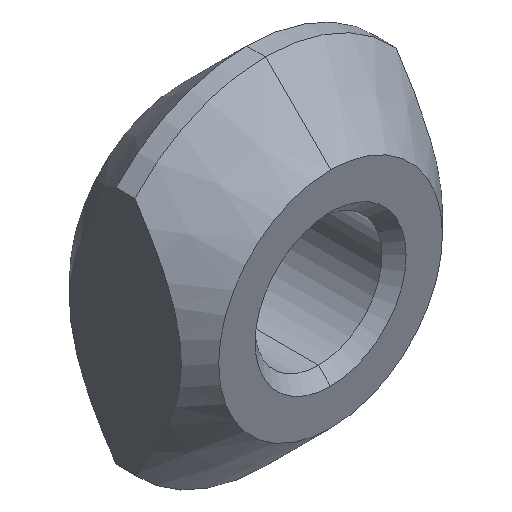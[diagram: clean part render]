
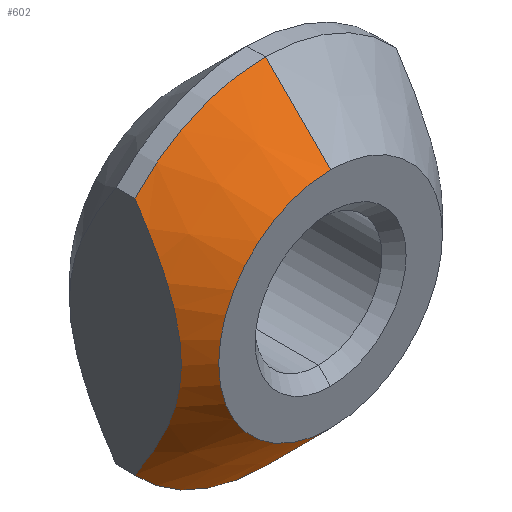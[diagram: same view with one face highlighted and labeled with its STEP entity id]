
A CAD part, isometric view. The second image highlights one B-rep face of the part: STEP entity #602.
In plain terms, the highlighted conical face has half-angle 45 degrees and reference radius 9.5 mm.
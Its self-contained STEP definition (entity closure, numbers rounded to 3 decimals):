
#5 = CARTESIAN_POINT ( 'NONE',  ( 0., 0., 0. ) ) ;
#24 = CARTESIAN_POINT ( 'NONE',  ( -7., 1.659, -3.117 ) ) ;
#28 = CARTESIAN_POINT ( 'NONE',  ( -7., 3.176, 5.943 ) ) ;
#31 = CARTESIAN_POINT ( 'NONE',  ( -7., 1.667, 3.136 ) ) ;
#37 = CARTESIAN_POINT ( 'NONE',  ( 0., 3.5, 0. ) ) ;
#44 = AXIS2_PLACEMENT_3D ( 'NONE', #37, #338, #386 ) ;
#49 = CONICAL_SURFACE ( 'NONE', #64, 9.5, 0.785 ) ;
#64 = AXIS2_PLACEMENT_3D ( 'NONE', #553, #505, #147 ) ;
#68 = EDGE_CURVE ( 'NONE', #465, #528, #486, .T. ) ;
#76 = CIRCLE ( 'NONE', #44, 9.5 ) ;
#78 = CARTESIAN_POINT ( 'NONE',  ( -7., 2.018, 3.939 ) ) ;
#99 = VERTEX_POINT ( 'NONE', #328 ) ;
#118 = DIRECTION ( 'NONE',  ( 0., 0.707, 0.707 ) ) ;
#125 = CARTESIAN_POINT ( 'NONE',  ( -7., 2.275, -4.433 ) ) ;
#127 = EDGE_LOOP ( 'NONE', ( #615, #339, #400, #577, #381, #274 ) ) ;
#131 = CIRCLE ( 'NONE', #425, 6. ) ;
#147 = DIRECTION ( 'NONE',  ( 0., 0., 1. ) ) ;
#166 = CARTESIAN_POINT ( 'NONE',  ( -7., 1.366, 2.308 ) ) ;
#169 = CARTESIAN_POINT ( 'NONE',  ( -7., 1., -0.578 ) ) ;
#214 = CARTESIAN_POINT ( 'NONE',  ( -7., 1., 0.298 ) ) ;
#218 = CARTESIAN_POINT ( 'NONE',  ( -7., 1.278, -2.011 ) ) ;
#220 = VERTEX_POINT ( 'NONE', #255 ) ;
#224 = EDGE_CURVE ( 'NONE', #465, #609, #131, .T. ) ;
#234 = B_SPLINE_CURVE_WITH_KNOTS ( 'NONE', 3,
 ( #382, #28, #626, #378, #78, #31, #434, #166, #424, #271, #476, #272, #214, #169, #433, #218, #619, #326, #24, #426, #125, #525, #628, #280 ),
 .UNSPECIFIED., .F., .F.,
 ( 4, 2, 2, 2, 2, 2, 2, 2, 2, 2, 2, 4 ),
 ( 0.034, 0.036, 0.038, 0.039, 0.039, 0.04, 0.041, 0.043, 0.044, 0.045, 0.046, 0.048 ),
 .UNSPECIFIED. ) ;
#245 = CARTESIAN_POINT ( 'NONE',  ( 0., 3.5, -9.5 ) ) ;
#255 = CARTESIAN_POINT ( 'NONE',  ( 0., 3.5, 9.5 ) ) ;
#256 = EDGE_CURVE ( 'NONE', #99, #331, #234, .T. ) ;
#271 = CARTESIAN_POINT ( 'NONE',  ( -7., 1.146, 1.462 ) ) ;
#272 = CARTESIAN_POINT ( 'NONE',  ( -7., 1.019, 0.594 ) ) ;
#274 = ORIENTED_EDGE ( 'NONE', *, *, #276, .F. ) ;
#276 = EDGE_CURVE ( 'NONE', #528, #331, #76, .T. ) ;
#280 = CARTESIAN_POINT ( 'NONE',  ( -7., 3.5, -6.423 ) ) ;
#326 = CARTESIAN_POINT ( 'NONE',  ( -7., 1.552, -2.846 ) ) ;
#328 = CARTESIAN_POINT ( 'NONE',  ( -7., 3.5, 6.423 ) ) ;
#331 = VERTEX_POINT ( 'NONE', #371 ) ;
#334 = DIRECTION ( 'NONE',  ( 0., 0.707, -0.707 ) ) ;
#338 = DIRECTION ( 'NONE',  ( 0., 1., 0. ) ) ;
#339 = ORIENTED_EDGE ( 'NONE', *, *, #224, .T. ) ;
#351 = CARTESIAN_POINT ( 'NONE',  ( 0., 0., -6. ) ) ;
#355 = DIRECTION ( 'NONE',  ( 0., 1., 0. ) ) ;
#371 = CARTESIAN_POINT ( 'NONE',  ( -7., 3.5, -6.423 ) ) ;
#378 = CARTESIAN_POINT ( 'NONE',  ( -7., 2.286, 4.453 ) ) ;
#381 = ORIENTED_EDGE ( 'NONE', *, *, #256, .T. ) ;
#382 = CARTESIAN_POINT ( 'NONE',  ( -7., 3.5, 6.423 ) ) ;
#386 = DIRECTION ( 'NONE',  ( 0., 0., 1. ) ) ;
#400 = ORIENTED_EDGE ( 'NONE', *, *, #578, .T. ) ;
#401 = DIRECTION ( 'NONE',  ( 0., 1., 0. ) ) ;
#405 = CARTESIAN_POINT ( 'NONE',  ( 0., 3.5, 0. ) ) ;
#424 = CARTESIAN_POINT ( 'NONE',  ( -7., 1.283, 2.029 ) ) ;
#425 = AXIS2_PLACEMENT_3D ( 'NONE', #5, #355, #464 ) ;
#426 = CARTESIAN_POINT ( 'NONE',  ( -7., 2.007, -3.917 ) ) ;
#433 = CARTESIAN_POINT ( 'NONE',  ( -7., 1.073, -1.155 ) ) ;
#434 = CARTESIAN_POINT ( 'NONE',  ( -7., 1.558, 2.862 ) ) ;
#439 = CARTESIAN_POINT ( 'NONE',  ( 0., 3.5, -9.5 ) ) ;
#464 = DIRECTION ( 'NONE',  ( 0., 0., 1. ) ) ;
#465 = VERTEX_POINT ( 'NONE', #351 ) ;
#476 = CARTESIAN_POINT ( 'NONE',  ( -7., 1.092, 1.175 ) ) ;
#480 = VECTOR ( 'NONE', #334, 1000. ) ;
#484 = FACE_OUTER_BOUND ( 'NONE', #127, .T. ) ;
#486 = LINE ( 'NONE', #439, #480 ) ;
#502 = CARTESIAN_POINT ( 'NONE',  ( 0., 0., 6. ) ) ;
#505 = DIRECTION ( 'NONE',  ( 0., 1., 0. ) ) ;
#508 = CIRCLE ( 'NONE', #530, 9.5 ) ;
#520 = CARTESIAN_POINT ( 'NONE',  ( 0., 3.5, 9.5 ) ) ;
#521 = LINE ( 'NONE', #520, #536 ) ;
#525 = CARTESIAN_POINT ( 'NONE',  ( -7., 2.859, -5.446 ) ) ;
#528 = VERTEX_POINT ( 'NONE', #245 ) ;
#530 = AXIS2_PLACEMENT_3D ( 'NONE', #405, #401, #590 ) ;
#536 = VECTOR ( 'NONE', #118, 1000. ) ;
#553 = CARTESIAN_POINT ( 'NONE',  ( 0., 3.5, 0. ) ) ;
#577 = ORIENTED_EDGE ( 'NONE', *, *, #612, .F. ) ;
#578 = EDGE_CURVE ( 'NONE', #609, #220, #521, .T. ) ;
#590 = DIRECTION ( 'NONE',  ( 0., 0., 1. ) ) ;
#602 = ADVANCED_FACE ( 'NONE', ( #484 ), #49, .T. ) ;
#609 = VERTEX_POINT ( 'NONE', #502 ) ;
#612 = EDGE_CURVE ( 'NONE', #99, #220, #508, .T. ) ;
#615 = ORIENTED_EDGE ( 'NONE', *, *, #68, .F. ) ;
#619 = CARTESIAN_POINT ( 'NONE',  ( -7., 1.362, -2.294 ) ) ;
#626 = CARTESIAN_POINT ( 'NONE',  ( -7., 2.865, 5.455 ) ) ;
#628 = CARTESIAN_POINT ( 'NONE',  ( -7., 3.174, -5.94 ) ) ;
